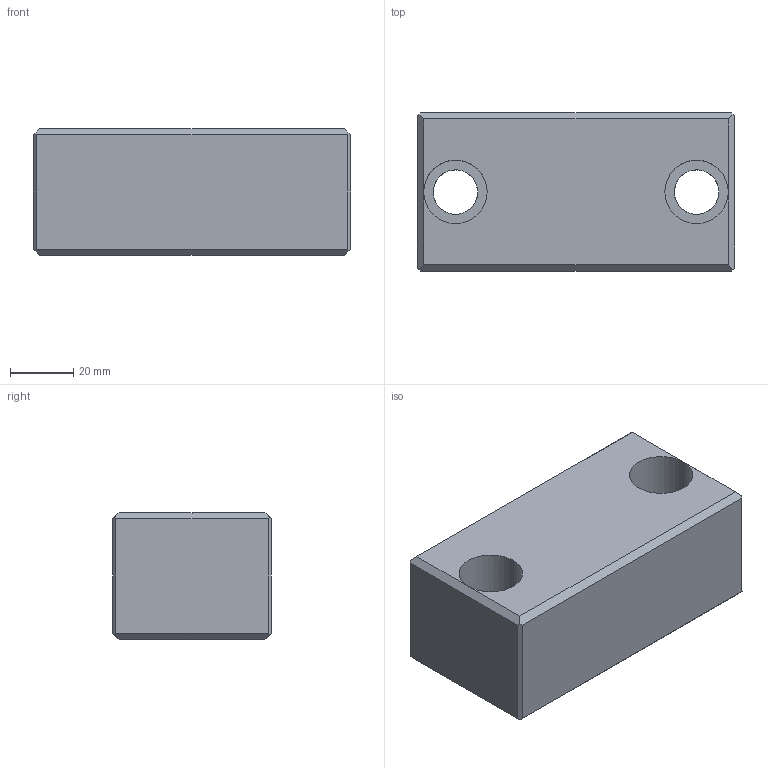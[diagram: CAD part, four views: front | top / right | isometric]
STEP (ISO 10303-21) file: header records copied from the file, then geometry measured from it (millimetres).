
FILE_DESCRIPTION(('CATIA V5 STEP Exchange'),'2;1');
FILE_NAME('C:\Users\Utente\Desktop\IO LAVORO\3D X SITO CF\X 3D SITO CF 27-09-2020\759\759+100+50+40+6.stp','2020-10-28T19:12:57+00:00',('none'),('none'),'CATIA Version 5 Release 20 GA (IN-10)','CATIA V5 STEP AP203','none');
FILE_SCHEMA(('CONFIG_CONTROL_DESIGN'));
Length unit declared in the file: millimetre
Products named in the file (1): 759+100+50+40+6
Bounding box: 100 x 50 x 40 mm (x, y, z)
Volume: 175538.6 mm3; surface area: 25381.2 mm2
Topology: 1 solids, 1 shells, 28 faces, 74 edges, 48 vertices
Faces by surface type: plane 20, cylinder 8
Entity records: 1001 total; most frequent: CARTESIAN_POINT 266, ORIENTED_EDGE 148, DIRECTION 125, EDGE_CURVE 74, VECTOR 58, LINE 58, VERTEX_POINT 48, AXIS2_PLACEMENT_3D 40
